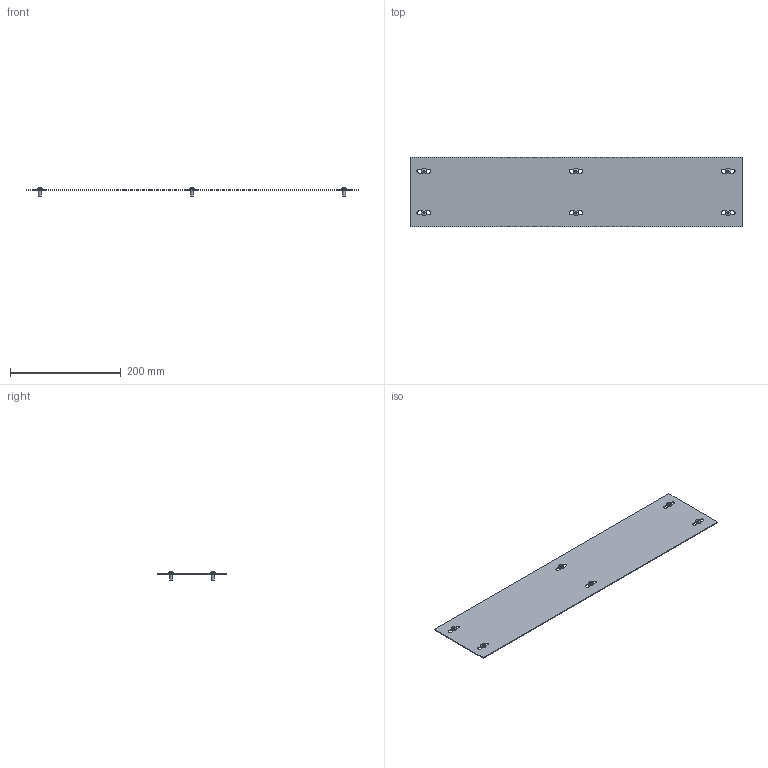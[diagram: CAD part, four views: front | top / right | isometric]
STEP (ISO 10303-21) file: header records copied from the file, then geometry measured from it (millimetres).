
FILE_DESCRIPTION(('Open CASCADE Model'),'2;1');
FILE_NAME('Open CASCADE Shape Model','2025-03-28T17:53:17',('Author'),( 'Open CASCADE'),'Open CASCADE STEP processor 7.8','Open CASCADE 7.8' ,'Unknown');
FILE_SCHEMA(('AUTOMOTIVE_DESIGN { 1 0 10303 214 1 1 1 1 }'));
Length unit declared in the file: millimetre
Products named in the file (3): Compound1; Solid1; Solid2
Assembly tree (7 placements, depth 2):
  Compound1
    Solid1
    Solid2  x6
Bounding box: 600 x 125 x 15.56 mm (x, y, z)
Volume: 113663.5 mm3; surface area: 153401.3 mm2
Topology: 7 solids, 7 shells, 126 faces, 264 edges, 158 vertices
Faces by surface type: plane 66, cylinder 24, torus 12, cone 12, sphere 6, bspline 6
Full cylindrical faces by diameter (mm): 5 x6, 9.5 x6
Entity records: 1804 total; most frequent: CARTESIAN_POINT 612, DIRECTION 242, ORIENTED_EDGE 226, EDGE_CURVE 113, AXIS2_PLACEMENT_3D 91, VERTEX_POINT 73, FACE_BOUND 60, EDGE_LOOP 60
